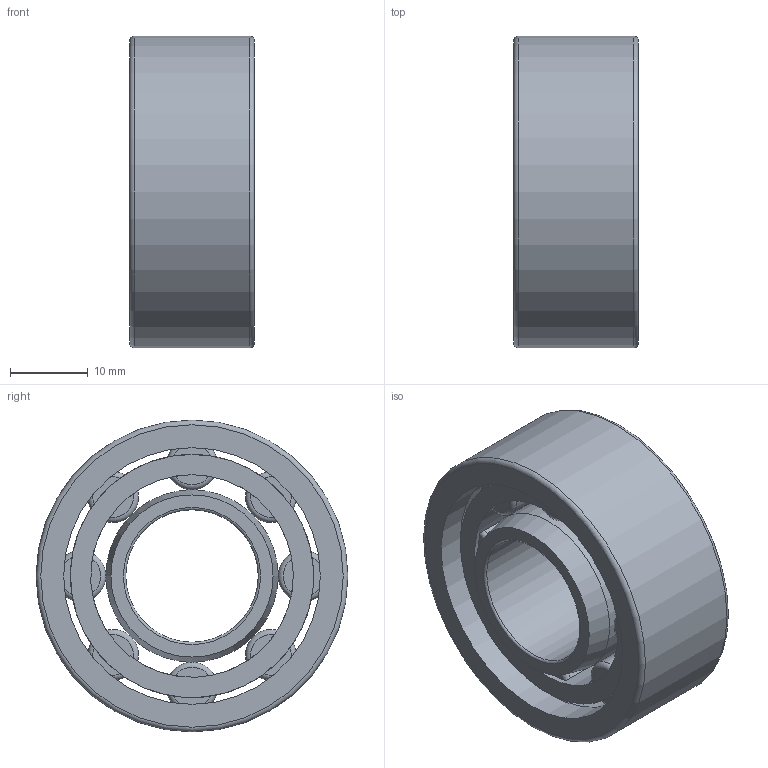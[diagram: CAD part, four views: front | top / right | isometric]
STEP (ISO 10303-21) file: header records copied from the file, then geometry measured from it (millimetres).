
FILE_DESCRIPTION(/* description */ (''),/* implementation_level */ '2;1');
FILE_NAME(/* name */ 'D:\moje\parametrické\RADIALN VALCEKY\NU\NU22--_\NU22---_\NU2203EDM.stp',/* time_stamp */ '2016-04-22T11:00:45+02:00',/* author */ ('OUBALASKO'),/* organization */ (''),/* preprocessor_version */ 'ST-DEVELOPER v15.2',/* originating_system */ 'Autodesk Inventor 2014',/* authorisation */ '');
FILE_SCHEMA (('AUTOMOTIVE_DESIGN { 1 0 10303 214 3 1 1 }'));
Length unit declared in the file: millimetre
Products named in the file (7): NU2203EDM-02; NU2203EDM-roller; NU2203EDM-01; NU2203EDM--EDMcage01; NU2203EDM--EDMcage02; NU2203EDM--EDMcage; NU2203EDM
Bounding box: 16 x 40 x 40 mm (x, y, z)
Volume: 11414 mm3; surface area: 11188.9 mm2
Topology: 12 solids, 12 shells, 161 faces, 338 edges, 218 vertices
Faces by surface type: plane 89, cylinder 50, torus 20, cone 2
Full cylindrical faces by diameter (mm): 0.65 x16, 6.5 x8, 17 x1, 22.1 x1, 26 x2, 31.2 x2, 32.933 x2, 35.1 x1, 40 x1
Entity records: 3643 total; most frequent: DIRECTION 668, CARTESIAN_POINT 586, ORIENTED_EDGE 504, AXIS2_PLACEMENT_3D 270, EDGE_CURVE 252, EDGE_LOOP 202, VERTEX_POINT 188, LINE 128
